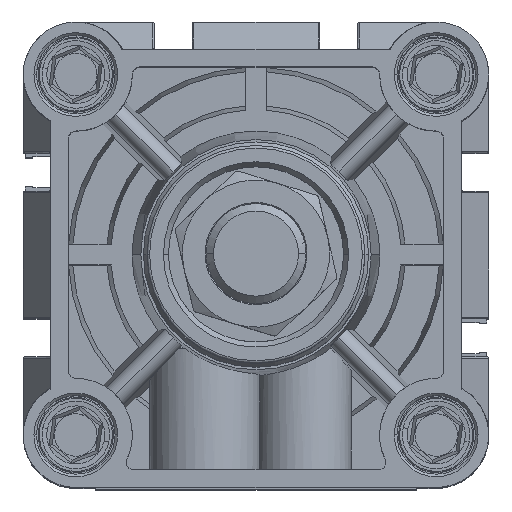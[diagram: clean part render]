
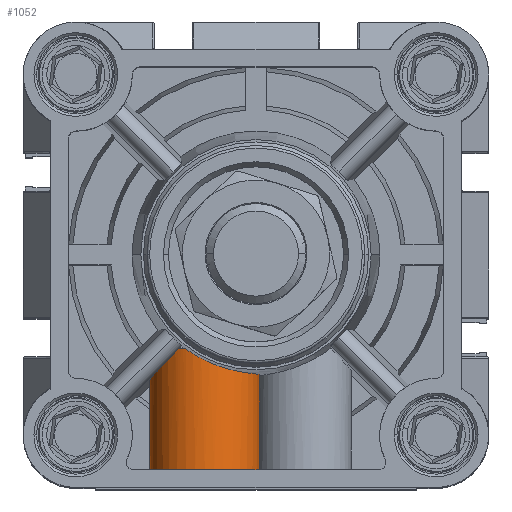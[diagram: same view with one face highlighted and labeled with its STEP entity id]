
A CAD part, top view. The second image highlights one B-rep face of the part: STEP entity #1052.
In plain terms, the highlighted cylindrical face has radius 11 mm (diameter 22 mm), a partial arc.
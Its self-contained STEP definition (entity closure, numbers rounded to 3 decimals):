
#1052 = ADVANCED_FACE ( 'NONE', ( #16390 ), #29863, .T. ) ;
#1275 = CARTESIAN_POINT ( 'NONE',  ( 24.903, 21.578, 26.105 ) ) ;
#1807 = DIRECTION ( 'NONE',  ( 1., 0., 0. ) ) ;
#2062 = CARTESIAN_POINT ( 'NONE',  ( 40.186, 17.306, 22.505 ) ) ;
#2175 = CARTESIAN_POINT ( 'NONE',  ( 32.566, 19.115, 27.686 ) ) ;
#2994 = CARTESIAN_POINT ( 'NONE',  ( 19.77, -2., 16.8 ) ) ;
#3130 = CARTESIAN_POINT ( 'NONE',  ( 19.77, 15.986, 16.8 ) ) ;
#3152 =( BOUNDED_CURVE ( )  B_SPLINE_CURVE ( 3, ( #13893, #30072, #19353, #3130 ),
 .UNSPECIFIED., .F., .F. ) 
 B_SPLINE_CURVE_WITH_KNOTS ( ( 4, 4 ),
 ( 5.226, 6.234 ),
 .UNSPECIFIED. ) 
 CURVE ( )  GEOMETRIC_REPRESENTATION_ITEM ( )  RATIONAL_B_SPLINE_CURVE ( ( 1., 0.917, 0.917, 1. ) ) 
 REPRESENTATION_ITEM ( '' )  );
#3726 = EDGE_CURVE ( 'NONE', #16706, #34399, #6490, .T. ) ;
#3833 = CARTESIAN_POINT ( 'NONE',  ( 25.481, 22.2, 26.445 ) ) ;
#4188 = ORIENTED_EDGE ( 'NONE', *, *, #25108, .T. ) ;
#4743 = CARTESIAN_POINT ( 'NONE',  ( 39.394, 17.405, 23.644 ) ) ;
#4869 = CARTESIAN_POINT ( 'NONE',  ( 30.871, 19.868, 27.807 ) ) ;
#6217 = AXIS2_PLACEMENT_3D ( 'NONE', #14795, #33698, #30979 ) ;
#6490 = LINE ( 'NONE', #10638, #34421 ) ;
#7461 = CARTESIAN_POINT ( 'NONE',  ( 38.476, 17.539, 24.663 ) ) ;
#7573 = CARTESIAN_POINT ( 'NONE',  ( 29.641, 20.5, 27.749 ) ) ;
#7873 = VERTEX_POINT ( 'NONE', #11074 ) ;
#9251 = CARTESIAN_POINT ( 'NONE',  ( 25.289, 21.986, 26.34 ) ) ;
#10029 = CARTESIAN_POINT ( 'NONE',  ( 19.77, 15.986, 16.8 ) ) ;
#10067 = CARTESIAN_POINT ( 'NONE',  ( 41.77, 17.006, 16.8 ) ) ;
#10181 = CARTESIAN_POINT ( 'NONE',  ( 37.431, 17.722, 25.566 ) ) ;
#10303 = CARTESIAN_POINT ( 'NONE',  ( 27.68, 21.678, 27.385 ) ) ;
#10638 = CARTESIAN_POINT ( 'NONE',  ( 41.77, 22.2, 16.8 ) ) ;
#11074 = CARTESIAN_POINT ( 'NONE',  ( 25.481, 22.2, 26.445 ) ) ;
#12530 = EDGE_LOOP ( 'NONE', ( #21863, #16699, #34771, #14851, #4188, #32508, #17472 ) ) ;
#12685 = CARTESIAN_POINT ( 'NONE',  ( 41.77, 17.03, 17.259 ) ) ;
#12804 = CARTESIAN_POINT ( 'NONE',  ( 41.741, 17.053, 17.718 ) ) ;
#12932 = CARTESIAN_POINT ( 'NONE',  ( 36.298, 17.964, 26.321 ) ) ;
#13368 = DIRECTION ( 'NONE',  ( 0., -1., 0. ) ) ;
#13492 = VERTEX_POINT ( 'NONE', #10029 ) ;
#13837 = CARTESIAN_POINT ( 'NONE',  ( 30.77, 22.2, 16.8 ) ) ;
#13893 = CARTESIAN_POINT ( 'NONE',  ( 24.903, 21.578, 26.105 ) ) ;
#14795 = CARTESIAN_POINT ( 'NONE',  ( 30.77, 22.2, 16.8 ) ) ;
#14851 = ORIENTED_EDGE ( 'NONE', *, *, #3726, .F. ) ;
#15023 = EDGE_CURVE ( 'NONE', #7873, #30163, #26005, .T. ) ;
#15524 = CARTESIAN_POINT ( 'NONE',  ( 41.539, 17.12, 19.091 ) ) ;
#15647 = CARTESIAN_POINT ( 'NONE',  ( 35.095, 18.275, 26.924 ) ) ;
#16390 = FACE_OUTER_BOUND ( 'NONE', #12530, .T. ) ;
#16551 = CARTESIAN_POINT ( 'NONE',  ( 41.77, 17.006, 16.8 ) ) ;
#16582 = DIRECTION ( 'NONE',  ( 1., 0., 0. ) ) ;
#16699 = ORIENTED_EDGE ( 'NONE', *, *, #34444, .T. ) ;
#16706 = VERTEX_POINT ( 'NONE', #16551 ) ;
#17469 = CARTESIAN_POINT ( 'NONE',  ( 25.097, 21.778, 26.227 ) ) ;
#17472 = ORIENTED_EDGE ( 'NONE', *, *, #15023, .T. ) ;
#18017 = DIRECTION ( 'NONE',  ( 0., -1., 0. ) ) ;
#18262 = CARTESIAN_POINT ( 'NONE',  ( 40.855, 17.225, 21.29 ) ) ;
#18388 = CARTESIAN_POINT ( 'NONE',  ( 33.413, 18.799, 27.515 ) ) ;
#19353 = CARTESIAN_POINT ( 'NONE',  ( 19.77, 16.176, 20.663 ) ) ;
#19368 = EDGE_CURVE ( 'NONE', #34399, #26886, #28277, .T. ) ;
#19698 = VERTEX_POINT ( 'NONE', #25077 ) ;
#20493 = CARTESIAN_POINT ( 'NONE',  ( 19.77, 22.2, 16.8 ) ) ;
#20987 = CARTESIAN_POINT ( 'NONE',  ( 39.935, 17.336, 22.9 ) ) ;
#21108 = CARTESIAN_POINT ( 'NONE',  ( 31.294, 19.67, 27.796 ) ) ;
#21863 = ORIENTED_EDGE ( 'NONE', *, *, #26332, .T. ) ;
#23701 = CARTESIAN_POINT ( 'NONE',  ( 39.102, 17.445, 23.996 ) ) ;
#23819 = CARTESIAN_POINT ( 'NONE',  ( 30.046, 20.282, 27.784 ) ) ;
#24407 = B_SPLINE_CURVE_WITH_KNOTS ( 'NONE', 3,
 ( #10067, #12685, #12804, #31690, #15524, #34433, #18262, #2062, #20987, #4743, #23701, #7461, #26422, #10181, #29097, #12932, #31813, #15647, #34551, #18388, #2175, #21108, #4869, #23819, #7573, #26542, #10303, #29205 ),
 .UNSPECIFIED., .F., .F.,
 ( 4, 2, 2, 2, 2, 2, 2, 2, 2, 2, 2, 2, 2, 4 ),
 ( 0.024, 0.026, 0.027, 0.03, 0.031, 0.032, 0.034, 0.035, 0.037, 0.038, 0.041, 0.042, 0.043, 0.046 ),
 .UNSPECIFIED. ) ;
#24964 = CIRCLE ( 'NONE', #31651, 11. ) ;
#25077 = CARTESIAN_POINT ( 'NONE',  ( 26.958, 22.2, 27.118 ) ) ;
#25108 = EDGE_CURVE ( 'NONE', #16706, #19698, #24407, .T. ) ;
#25652 = LINE ( 'NONE', #20493, #32833 ) ;
#25921 = DIRECTION ( 'NONE',  ( 0., -1., 0. ) ) ;
#26005 = B_SPLINE_CURVE_WITH_KNOTS ( 'NONE', 3,
 ( #3833, #9251, #17469, #1275 ),
 .UNSPECIFIED., .F., .F.,
 ( 4, 4 ),
 ( 0., 0.001 ),
 .UNSPECIFIED. ) ;
#26332 = EDGE_CURVE ( 'NONE', #30163, #13492, #3152, .T. ) ;
#26422 = CARTESIAN_POINT ( 'NONE',  ( 38.142, 17.593, 24.977 ) ) ;
#26542 = CARTESIAN_POINT ( 'NONE',  ( 28.449, 21.181, 27.582 ) ) ;
#26886 = VERTEX_POINT ( 'NONE', #2994 ) ;
#28277 = CIRCLE ( 'NONE', #30055, 11. ) ;
#28378 = CARTESIAN_POINT ( 'NONE',  ( 41.77, -2., 16.8 ) ) ;
#28791 = EDGE_CURVE ( 'NONE', #19698, #7873, #24964, .T. ) ;
#29097 = CARTESIAN_POINT ( 'NONE',  ( 37.061, 17.796, 25.835 ) ) ;
#29205 = CARTESIAN_POINT ( 'NONE',  ( 26.958, 22.2, 27.118 ) ) ;
#29863 = CYLINDRICAL_SURFACE ( 'NONE', #6217, 11. ) ;
#30055 = AXIS2_PLACEMENT_3D ( 'NONE', #34172, #18017, #1807 ) ;
#30072 = CARTESIAN_POINT ( 'NONE',  ( 21.636, 18.209, 24.045 ) ) ;
#30163 = VERTEX_POINT ( 'NONE', #35007 ) ;
#30979 = DIRECTION ( 'NONE',  ( 1., 0., 0. ) ) ;
#31651 = AXIS2_PLACEMENT_3D ( 'NONE', #13837, #32735, #16582 ) ;
#31690 = CARTESIAN_POINT ( 'NONE',  ( 41.626, 17.098, 18.632 ) ) ;
#31813 = CARTESIAN_POINT ( 'NONE',  ( 35.905, 18.059, 26.538 ) ) ;
#32508 = ORIENTED_EDGE ( 'NONE', *, *, #28791, .T. ) ;
#32735 = DIRECTION ( 'NONE',  ( 0., -1., 0. ) ) ;
#32833 = VECTOR ( 'NONE', #25921, 1000. ) ;
#33698 = DIRECTION ( 'NONE',  ( 0., -1., 0. ) ) ;
#34172 = CARTESIAN_POINT ( 'NONE',  ( 30.77, -2., 16.8 ) ) ;
#34399 = VERTEX_POINT ( 'NONE', #28378 ) ;
#34421 = VECTOR ( 'NONE', #13368, 1000. ) ;
#34433 = CARTESIAN_POINT ( 'NONE',  ( 41.193, 17.184, 20.436 ) ) ;
#34444 = EDGE_CURVE ( 'NONE', #13492, #26886, #25652, .T. ) ;
#34551 = CARTESIAN_POINT ( 'NONE',  ( 34.676, 18.397, 27.093 ) ) ;
#34771 = ORIENTED_EDGE ( 'NONE', *, *, #19368, .F. ) ;
#35007 = CARTESIAN_POINT ( 'NONE',  ( 24.903, 21.578, 26.105 ) ) ;
